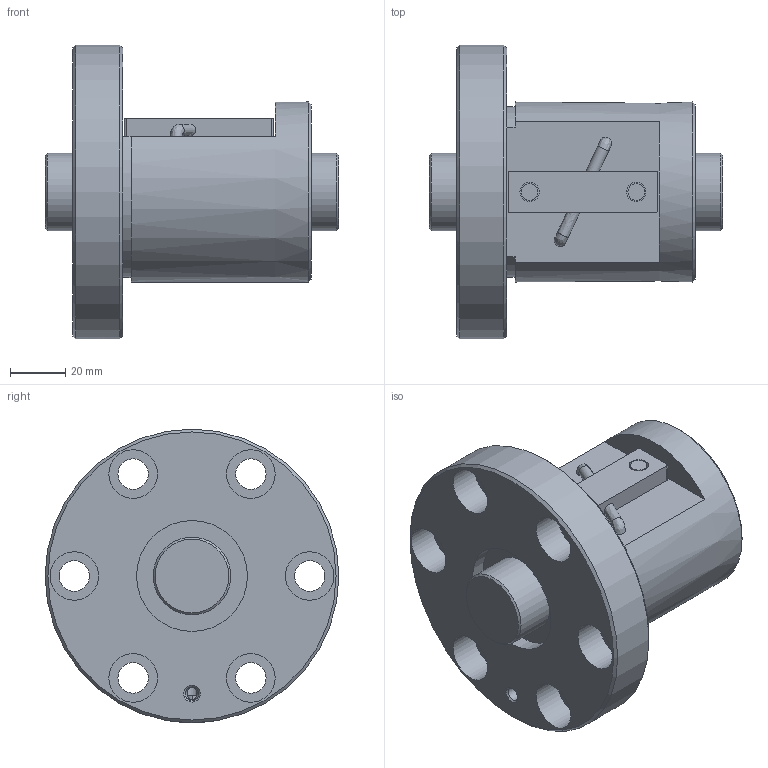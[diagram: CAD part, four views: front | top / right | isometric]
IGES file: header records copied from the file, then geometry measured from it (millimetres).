
Start section: Data from Parasolid IGES Translator 26.0.171, Copyright(c) 2006 Siemens PLM Software. All Rights Reserved.
Global section: file name: BNF2810V-2.5RRG1+106LC0_000_rev.igs; native system: By Siemens PLM Incorporated; preprocessor: XPlus GENERIC/IGES 26.0.171; author: Noname; organization: Noname; date: 20240806.073059; units: millimetre
Bounding box: 106 x 106 x 106 mm (x, y, z)
Surface area: 61052.5 mm2 (no closed solid volume)
Topology: 0 solids, 0 shells, 71 faces, 328 edges, 296 vertices
Faces by surface type: revolution 44, extrusion 27
